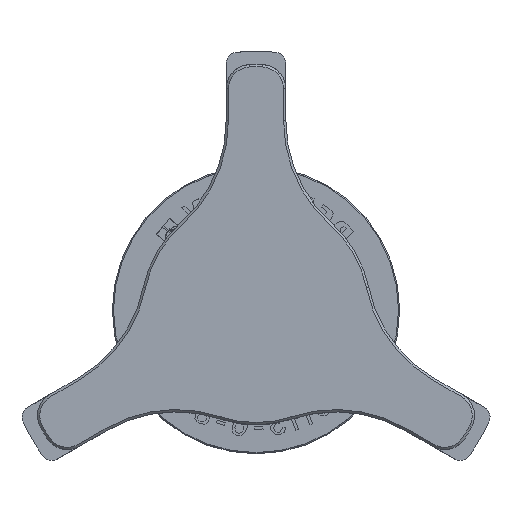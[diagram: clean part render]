
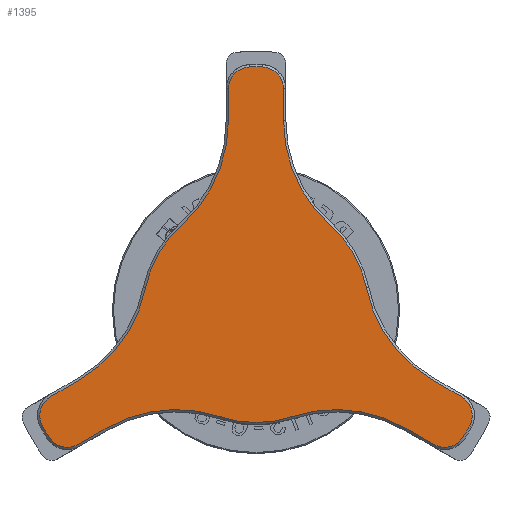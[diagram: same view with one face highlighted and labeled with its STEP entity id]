
A CAD part, top view. The second image highlights one B-rep face of the part: STEP entity #1395.
In plain terms, the highlighted planar face has unit normal (0, 0, 1).
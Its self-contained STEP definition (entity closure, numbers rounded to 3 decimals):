
#1188=PLANE('',#4304);
#1395=ADVANCED_FACE('',(#1607),#1188,.T.);
#1607=FACE_OUTER_BOUND('',#1719,.T.);
#1719=EDGE_LOOP('',(#2362,#2363,#2364,#2365,#2366,#2367,#2368,#2369,#2370,
#2371,#2372,#2373,#2374,#2375,#2376,#2377,#2378,#2379,#2380,#2381,#2382,
#2383,#2384,#2385));
#1979=CIRCLE('',#4286,1.9);
#1980=CIRCLE('',#4287,21.15);
#1981=CIRCLE('',#4288,1.9);
#1982=CIRCLE('',#4289,12.2);
#1983=CIRCLE('',#4290,9.8);
#1984=CIRCLE('',#4291,12.2);
#1985=CIRCLE('',#4292,1.9);
#1986=CIRCLE('',#4293,21.15);
#1987=CIRCLE('',#4294,1.9);
#1988=CIRCLE('',#4295,12.2);
#1989=CIRCLE('',#4296,9.8);
#1990=CIRCLE('',#4297,12.2);
#1991=CIRCLE('',#4298,1.9);
#1992=CIRCLE('',#4299,21.15);
#1993=CIRCLE('',#4300,1.9);
#1994=CIRCLE('',#4301,12.2);
#1995=CIRCLE('',#4302,9.8);
#1996=CIRCLE('',#4303,12.2);
#2362=ORIENTED_EDGE('',*,*,#3641,.T.);
#2363=ORIENTED_EDGE('',*,*,#3642,.T.);
#2364=ORIENTED_EDGE('',*,*,#3643,.T.);
#2365=ORIENTED_EDGE('',*,*,#3644,.T.);
#2366=ORIENTED_EDGE('',*,*,#3645,.T.);
#2367=ORIENTED_EDGE('',*,*,#3646,.T.);
#2368=ORIENTED_EDGE('',*,*,#3647,.T.);
#2369=ORIENTED_EDGE('',*,*,#3648,.T.);
#2370=ORIENTED_EDGE('',*,*,#3649,.T.);
#2371=ORIENTED_EDGE('',*,*,#3650,.T.);
#2372=ORIENTED_EDGE('',*,*,#3651,.T.);
#2373=ORIENTED_EDGE('',*,*,#3652,.T.);
#2374=ORIENTED_EDGE('',*,*,#3653,.T.);
#2375=ORIENTED_EDGE('',*,*,#3654,.T.);
#2376=ORIENTED_EDGE('',*,*,#3655,.T.);
#2377=ORIENTED_EDGE('',*,*,#3656,.T.);
#2378=ORIENTED_EDGE('',*,*,#3657,.T.);
#2379=ORIENTED_EDGE('',*,*,#3658,.T.);
#2380=ORIENTED_EDGE('',*,*,#3659,.T.);
#2381=ORIENTED_EDGE('',*,*,#3660,.T.);
#2382=ORIENTED_EDGE('',*,*,#3661,.T.);
#2383=ORIENTED_EDGE('',*,*,#3662,.T.);
#2384=ORIENTED_EDGE('',*,*,#3663,.T.);
#2385=ORIENTED_EDGE('',*,*,#3664,.T.);
#3260=VERTEX_POINT('',#5400);
#3261=VERTEX_POINT('',#5401);
#3262=VERTEX_POINT('',#5403);
#3263=VERTEX_POINT('',#5405);
#3264=VERTEX_POINT('',#5407);
#3265=VERTEX_POINT('',#5409);
#3266=VERTEX_POINT('',#5411);
#3267=VERTEX_POINT('',#5413);
#3268=VERTEX_POINT('',#5415);
#3269=VERTEX_POINT('',#5417);
#3270=VERTEX_POINT('',#5419);
#3271=VERTEX_POINT('',#5421);
#3272=VERTEX_POINT('',#5423);
#3273=VERTEX_POINT('',#5425);
#3274=VERTEX_POINT('',#5427);
#3275=VERTEX_POINT('',#5429);
#3276=VERTEX_POINT('',#5431);
#3277=VERTEX_POINT('',#5433);
#3278=VERTEX_POINT('',#5435);
#3279=VERTEX_POINT('',#5437);
#3280=VERTEX_POINT('',#5439);
#3281=VERTEX_POINT('',#5441);
#3282=VERTEX_POINT('',#5443);
#3283=VERTEX_POINT('',#5445);
#3641=EDGE_CURVE('',#3260,#3261,#4055,.T.);
#3642=EDGE_CURVE('',#3261,#3262,#1979,.T.);
#3643=EDGE_CURVE('',#3262,#3263,#1980,.T.);
#3644=EDGE_CURVE('',#3263,#3264,#1981,.T.);
#3645=EDGE_CURVE('',#3264,#3265,#4056,.T.);
#3646=EDGE_CURVE('',#3265,#3266,#1982,.T.);
#3647=EDGE_CURVE('',#3266,#3267,#1983,.T.);
#3648=EDGE_CURVE('',#3267,#3268,#1984,.T.);
#3649=EDGE_CURVE('',#3268,#3269,#4057,.T.);
#3650=EDGE_CURVE('',#3269,#3270,#1985,.T.);
#3651=EDGE_CURVE('',#3270,#3271,#1986,.T.);
#3652=EDGE_CURVE('',#3271,#3272,#1987,.T.);
#3653=EDGE_CURVE('',#3272,#3273,#4058,.T.);
#3654=EDGE_CURVE('',#3273,#3274,#1988,.T.);
#3655=EDGE_CURVE('',#3274,#3275,#1989,.T.);
#3656=EDGE_CURVE('',#3275,#3276,#1990,.T.);
#3657=EDGE_CURVE('',#3276,#3277,#4059,.T.);
#3658=EDGE_CURVE('',#3277,#3278,#1991,.T.);
#3659=EDGE_CURVE('',#3278,#3279,#1992,.T.);
#3660=EDGE_CURVE('',#3279,#3280,#1993,.T.);
#3661=EDGE_CURVE('',#3280,#3281,#4060,.T.);
#3662=EDGE_CURVE('',#3281,#3282,#1994,.T.);
#3663=EDGE_CURVE('',#3282,#3283,#1995,.T.);
#3664=EDGE_CURVE('',#3283,#3260,#1996,.T.);
#4055=LINE('',#5399,#4162);
#4056=LINE('',#5408,#4163);
#4057=LINE('',#5416,#4164);
#4058=LINE('',#5424,#4165);
#4059=LINE('',#5432,#4166);
#4060=LINE('',#5440,#4167);
#4162=VECTOR('',#4637,1.);
#4163=VECTOR('',#4644,1.);
#4164=VECTOR('',#4651,1.);
#4165=VECTOR('',#4658,1.);
#4166=VECTOR('',#4665,1.);
#4167=VECTOR('',#4672,1.);
#4286=AXIS2_PLACEMENT_3D('',#5402,#4638,#4639);
#4287=AXIS2_PLACEMENT_3D('',#5404,#4640,#4641);
#4288=AXIS2_PLACEMENT_3D('',#5406,#4642,#4643);
#4289=AXIS2_PLACEMENT_3D('',#5410,#4645,#4646);
#4290=AXIS2_PLACEMENT_3D('',#5412,#4647,#4648);
#4291=AXIS2_PLACEMENT_3D('',#5414,#4649,#4650);
#4292=AXIS2_PLACEMENT_3D('',#5418,#4652,#4653);
#4293=AXIS2_PLACEMENT_3D('',#5420,#4654,#4655);
#4294=AXIS2_PLACEMENT_3D('',#5422,#4656,#4657);
#4295=AXIS2_PLACEMENT_3D('',#5426,#4659,#4660);
#4296=AXIS2_PLACEMENT_3D('',#5428,#4661,#4662);
#4297=AXIS2_PLACEMENT_3D('',#5430,#4663,#4664);
#4298=AXIS2_PLACEMENT_3D('',#5434,#4666,#4667);
#4299=AXIS2_PLACEMENT_3D('',#5436,#4668,#4669);
#4300=AXIS2_PLACEMENT_3D('',#5438,#4670,#4671);
#4301=AXIS2_PLACEMENT_3D('',#5442,#4673,#4674);
#4302=AXIS2_PLACEMENT_3D('',#5444,#4675,#4676);
#4303=AXIS2_PLACEMENT_3D('',#5446,#4677,#4678);
#4304=AXIS2_PLACEMENT_3D('',#5447,#4679,#4680);
#4637=DIRECTION('',(-0.866,-0.5,0.));
#4638=DIRECTION('',(0.,0.,1.));
#4639=DIRECTION('',(0.,-1.,0.));
#4640=DIRECTION('',(0.,0.,1.));
#4641=DIRECTION('',(0.,-1.,0.));
#4642=DIRECTION('',(0.,0.,1.));
#4643=DIRECTION('',(0.,-1.,0.));
#4644=DIRECTION('',(0.866,0.5,0.));
#4645=DIRECTION('',(0.,0.,-1.));
#4646=DIRECTION('',(0.,-1.,0.));
#4647=DIRECTION('',(0.,0.,1.));
#4648=DIRECTION('',(0.,-1.,0.));
#4649=DIRECTION('',(0.,0.,-1.));
#4650=DIRECTION('',(0.,-1.,0.));
#4651=DIRECTION('',(0.866,-0.5,0.));
#4652=DIRECTION('',(0.,0.,1.));
#4653=DIRECTION('',(0.,-1.,0.));
#4654=DIRECTION('',(0.,0.,1.));
#4655=DIRECTION('',(0.,-1.,0.));
#4656=DIRECTION('',(0.,0.,1.));
#4657=DIRECTION('',(0.,-1.,0.));
#4658=DIRECTION('',(-0.866,0.5,0.));
#4659=DIRECTION('',(0.,0.,-1.));
#4660=DIRECTION('',(0.,-1.,0.));
#4661=DIRECTION('',(0.,0.,1.));
#4662=DIRECTION('',(0.,-1.,0.));
#4663=DIRECTION('',(0.,0.,-1.));
#4664=DIRECTION('',(0.,-1.,0.));
#4665=DIRECTION('',(0.,1.,0.));
#4666=DIRECTION('',(0.,0.,1.));
#4667=DIRECTION('',(0.,-1.,0.));
#4668=DIRECTION('',(0.,0.,1.));
#4669=DIRECTION('',(0.,-1.,0.));
#4670=DIRECTION('',(0.,0.,1.));
#4671=DIRECTION('',(0.,-1.,0.));
#4672=DIRECTION('',(0.,-1.,0.));
#4673=DIRECTION('',(0.,0.,-1.));
#4674=DIRECTION('',(0.,-1.,0.));
#4675=DIRECTION('',(0.,0.,1.));
#4676=DIRECTION('',(0.,-1.,0.));
#4677=DIRECTION('',(0.,0.,-1.));
#4678=DIRECTION('',(0.,-1.,0.));
#4679=DIRECTION('',(0.,0.,1.));
#4680=DIRECTION('',(0.,-1.,0.));
#5399=CARTESIAN_POINT('',(-17.865,-7.543,0.3));
#5400=CARTESIAN_POINT('',(-15.452,-6.15,0.3));
#5401=CARTESIAN_POINT('',(-17.865,-7.543,0.3));
#5402=CARTESIAN_POINT('',(-16.915,-9.189,0.3));
#5403=CARTESIAN_POINT('',(-18.585,-10.096,0.3));
#5404=CARTESIAN_POINT('',(0.,0.,0.3));
#5405=CARTESIAN_POINT('',(-18.036,-11.047,0.3));
#5406=CARTESIAN_POINT('',(-16.415,-10.055,0.3));
#5407=CARTESIAN_POINT('',(-15.465,-11.7,0.3));
#5408=CARTESIAN_POINT('',(1.2,-2.078,0.3));
#5409=CARTESIAN_POINT('',(-13.052,-10.307,0.3));
#5410=CARTESIAN_POINT('',(-6.952,-20.873,0.3));
#5411=CARTESIAN_POINT('',(-3.097,-9.298,0.3));
#5412=CARTESIAN_POINT('',(0.,0.,0.3));
#5413=CARTESIAN_POINT('',(3.097,-9.298,0.3));
#5414=CARTESIAN_POINT('',(6.952,-20.873,0.3));
#5415=CARTESIAN_POINT('',(13.052,-10.307,0.3));
#5416=CARTESIAN_POINT('',(-1.2,-2.078,0.3));
#5417=CARTESIAN_POINT('',(15.465,-11.7,0.3));
#5418=CARTESIAN_POINT('',(16.415,-10.055,0.3));
#5419=CARTESIAN_POINT('',(18.036,-11.047,0.3));
#5420=CARTESIAN_POINT('',(0.,0.,0.3));
#5421=CARTESIAN_POINT('',(18.585,-10.096,0.3));
#5422=CARTESIAN_POINT('',(16.915,-9.189,0.3));
#5423=CARTESIAN_POINT('',(17.865,-7.543,0.3));
#5424=CARTESIAN_POINT('',(15.452,-6.15,0.3));
#5425=CARTESIAN_POINT('',(15.452,-6.15,0.3));
#5426=CARTESIAN_POINT('',(21.552,4.415,0.3));
#5427=CARTESIAN_POINT('',(9.601,1.967,0.3));
#5428=CARTESIAN_POINT('',(0.,0.,0.3));
#5429=CARTESIAN_POINT('',(6.504,7.331,0.3));
#5430=CARTESIAN_POINT('',(14.6,16.457,0.3));
#5431=CARTESIAN_POINT('',(2.4,16.457,0.3));
#5432=CARTESIAN_POINT('',(2.4,19.244,0.3));
#5433=CARTESIAN_POINT('',(2.4,19.244,0.3));
#5434=CARTESIAN_POINT('',(0.5,19.244,0.3));
#5435=CARTESIAN_POINT('',(0.549,21.143,0.3));
#5436=CARTESIAN_POINT('',(0.,0.,0.3));
#5437=CARTESIAN_POINT('',(-0.549,21.143,0.3));
#5438=CARTESIAN_POINT('',(-0.5,19.244,0.3));
#5439=CARTESIAN_POINT('',(-2.4,19.244,0.3));
#5440=CARTESIAN_POINT('',(-2.4,16.457,0.3));
#5441=CARTESIAN_POINT('',(-2.4,16.457,0.3));
#5442=CARTESIAN_POINT('',(-14.6,16.457,0.3));
#5443=CARTESIAN_POINT('',(-6.504,7.331,0.3));
#5444=CARTESIAN_POINT('',(0.,0.,0.3));
#5445=CARTESIAN_POINT('',(-9.601,1.967,0.3));
#5446=CARTESIAN_POINT('',(-21.552,4.415,0.3));
#5447=CARTESIAN_POINT('',(0.,0.,0.3));
